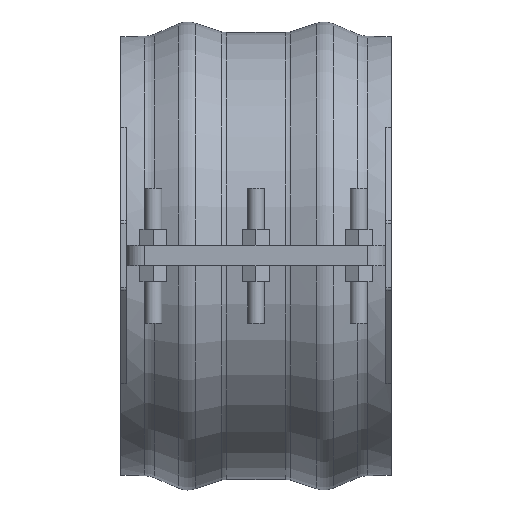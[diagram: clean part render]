
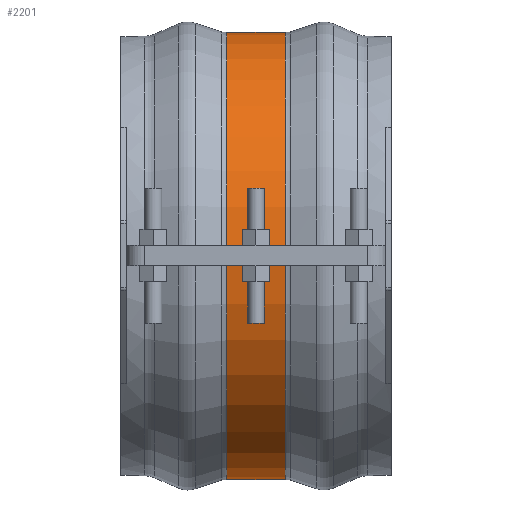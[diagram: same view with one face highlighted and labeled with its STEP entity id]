
A CAD part, top view. The second image highlights one B-rep face of the part: STEP entity #2201.
In plain terms, the highlighted cylindrical face has radius 210.249 mm (diameter 420.498 mm), a partial arc.
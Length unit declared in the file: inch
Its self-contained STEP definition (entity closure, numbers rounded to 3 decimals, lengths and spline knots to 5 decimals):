
#257=FACE_OUTER_BOUND('',#382,.T.);
#382=EDGE_LOOP('',(#1818,#1819,#1820,#1821));
#574=LINE('',#3584,#753);
#577=LINE('',#3669,#756);
#753=VECTOR('',#2893,0.3937);
#756=VECTOR('',#2904,0.3937);
#816=CIRCLE('',#2384,8.27751);
#817=CIRCLE('',#2386,8.27751);
#1017=VERTEX_POINT('',#3576);
#1018=VERTEX_POINT('',#3583);
#1029=VERTEX_POINT('',#3661);
#1030=VERTEX_POINT('',#3668);
#1290=EDGE_CURVE('',#1018,#1017,#574,.T.);
#1305=EDGE_CURVE('',#1030,#1029,#577,.T.);
#1316=EDGE_CURVE('',#1018,#1029,#816,.T.);
#1317=EDGE_CURVE('',#1017,#1030,#817,.T.);
#1818=ORIENTED_EDGE('',*,*,#1290,.T.);
#1819=ORIENTED_EDGE('',*,*,#1317,.T.);
#1820=ORIENTED_EDGE('',*,*,#1305,.T.);
#1821=ORIENTED_EDGE('',*,*,#1316,.F.);
#1994=CYLINDRICAL_SURFACE('',#2385,8.27751);
#2201=ADVANCED_FACE('',(#257),#1994,.T.);
#2384=AXIS2_PLACEMENT_3D('',#3717,#2925,#2926);
#2385=AXIS2_PLACEMENT_3D('',#3718,#2927,#2928);
#2386=AXIS2_PLACEMENT_3D('',#3719,#2929,#2930);
#2893=DIRECTION('',(-1.,0.,0.));
#2904=DIRECTION('',(1.,0.,0.));
#2925=DIRECTION('center_axis',(1.,0.,0.));
#2926=DIRECTION('ref_axis',(0.,0.,-1.));
#2927=DIRECTION('center_axis',(1.,0.,0.));
#2928=DIRECTION('ref_axis',(0.,0.,-1.));
#2929=DIRECTION('center_axis',(1.,0.,0.));
#2930=DIRECTION('ref_axis',(0.,0.,-1.));
#3576=CARTESIAN_POINT('',(-1.08851,-0.375,8.26901));
#3583=CARTESIAN_POINT('',(1.08851,-0.375,8.26901));
#3584=CARTESIAN_POINT('',(0.,-0.375,8.26901));
#3661=CARTESIAN_POINT('',(1.08851,0.375,8.26901));
#3668=CARTESIAN_POINT('',(-1.08851,0.375,8.26901));
#3669=CARTESIAN_POINT('',(0.,0.375,8.26901));
#3717=CARTESIAN_POINT('Origin',(1.08851,0.,0.));
#3718=CARTESIAN_POINT('Origin',(0.,0.,0.));
#3719=CARTESIAN_POINT('Origin',(-1.08851,0.,0.));
